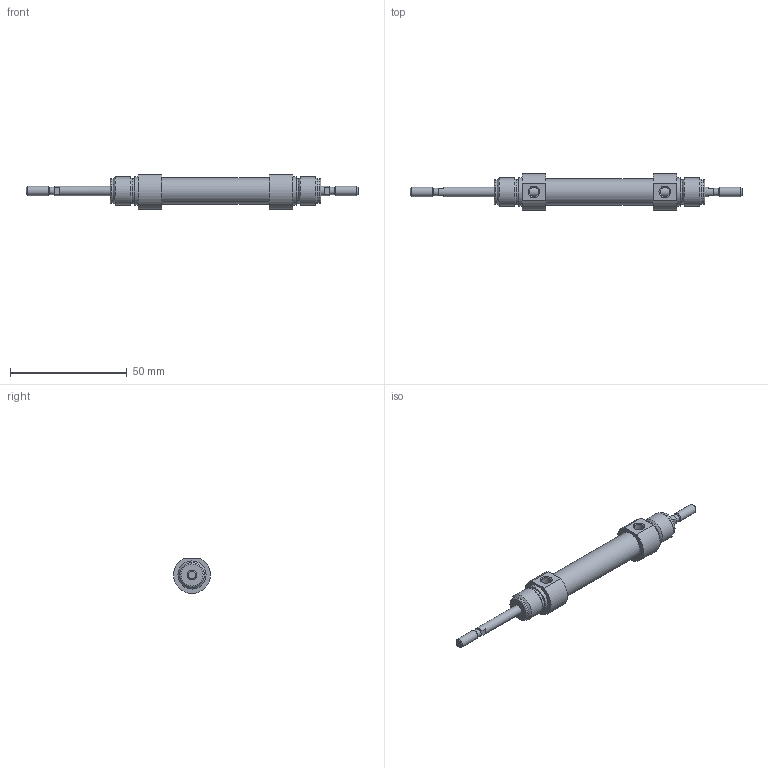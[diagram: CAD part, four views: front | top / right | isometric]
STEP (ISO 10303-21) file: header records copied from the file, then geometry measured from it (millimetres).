
FILE_DESCRIPTION( ( 'STEP AP203' ), '1' );
FILE_NAME( '//expscmdclustefs.cadenas.external/client_exchange/iodir/jobs/output/wkb68271039_no0/STEP/M101-010-0020--__0__2_03.stp', ' ', ( ' ' ), ( ' ' ), 'PSStep 15.0.47', 'PARTsolutions', ' ' );
FILE_SCHEMA( ( 'CONFIG_CONTROL_DESIGN' ) );
Length unit declared in the file: millimetre
Products named in the file (3): M101-010-0020-- [0]; HI_M101-010-0020---[0]-z; HI_M101-010-0020---[0]-k
Assembly tree (2 placements, depth 2):
  M101-010-0020-- [0]
    HI_M101-010-0020---[0]-z
    HI_M101-010-0020---[0]-k
Bounding box: 142 x 15.77 x 14.87 mm (x, y, z)
Volume: 10146.3 mm3; surface area: 7877.1 mm2
Topology: 2 solids, 2 shells, 71 faces, 145 edges, 88 vertices
Faces by surface type: plane 32, cylinder 23, cone 14, torus 2
Full cylindrical faces by diameter (mm): 3.141 x2, 4 x6, 4.134 x2, 10 x2, 10.466 x4, 11.3 x1, 12 x4
Entity records: 1838 total; most frequent: CARTESIAN_POINT 358, DIRECTION 312, ORIENTED_EDGE 212, AXIS2_PLACEMENT_3D 140, EDGE_LOOP 120, EDGE_CURVE 106, FACE_OUTER_BOUND 94, VERTEX_POINT 82
